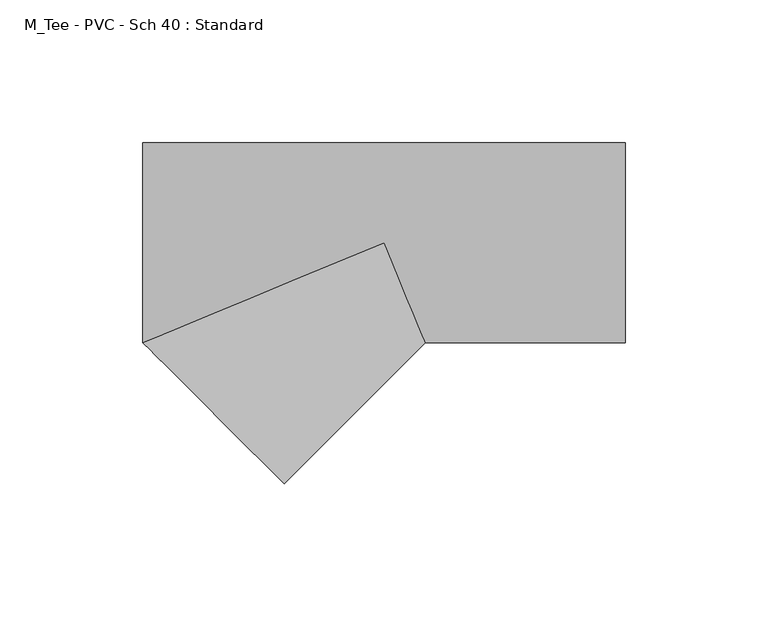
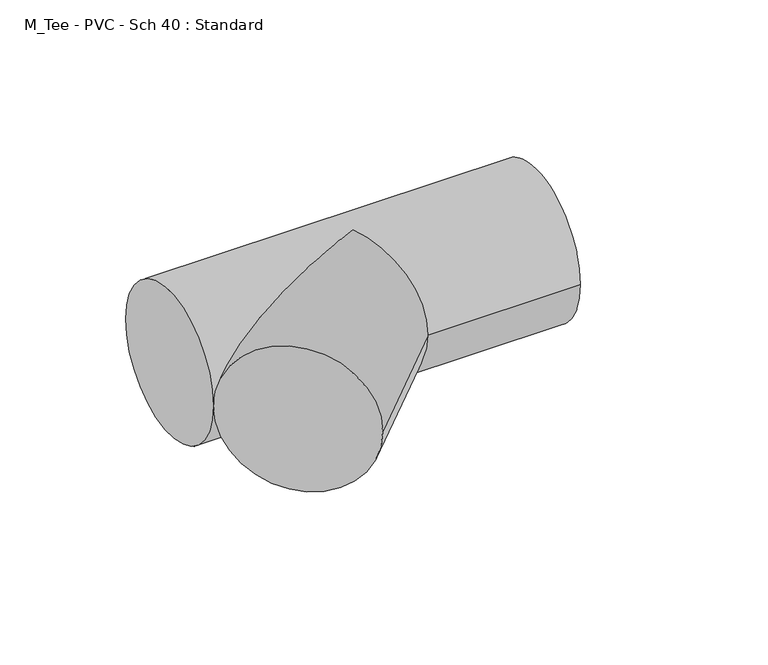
"""IFC4 building model written with IfcOpenShell, lengths in millimetres: pipe fitting geometry, M_Tee - PVC - Sch 40 : Standard."""

from ifc_helpers import new_model, si_unit, frame, origin, place, context, project, spatial, circle_curve, ellipse_curve, source, transform, mapped, element, save
from ifc_brep_helpers import plane_surface, cylinder_surface, advanced_brep


def m_tee_pvc_sch_40_standard_151c2b90(model_context):
    return source(origin(), model_context, "Body", "AdvancedBrep", [
        advanced_brep(
        [(-84.3193627, -34.925, 0.0), (-84.3193627, 34.925, 0.0), (84.3193627, -34.925, 0.0), (84.3193627, 34.925, 0.0), (0.0, 0.0, 34.925), (14.4659019, -34.925, 0.0), (0.0, 0.0, -34.925), (-34.9291776, -84.3176322, 0.0)],
        [
            (0, 1, circle_curve(frame((-84.3193627, 0.0, 0.0), z_axis=(-1.0, 0.0, 0.0), x_axis=(0.0, 1.0, 0.0)), 34.925)),
            (1, 0, circle_curve(frame((-84.3193627, 0.0, 0.0), z_axis=(-1.0, 0.0, 0.0), x_axis=(0.0, 1.0, 0.0)), 34.925)),
            (2, 3, circle_curve(frame((84.3193627, 0.0, 0.0), z_axis=(1.0, 0.0, 0.0), x_axis=(0.0, 1.0, 0.0)), 34.925)),
            (3, 2, circle_curve(frame((84.3193627, 0.0, 0.0), z_axis=(1.0, 0.0, 0.0), x_axis=(0.0, 1.0, 0.0)), 34.925)),
            (0, 4, ellipse_curve(frame((0.0, 0.0, 0.0), z_axis=(-0.3826719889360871, 0.92388427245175, 0.0), x_axis=(-0.9238842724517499, -0.38267198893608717, 0.0)), 91.2661522, 34.925)),
            (4, 5, ellipse_curve(frame((0.0, 0.0, 0.0), z_axis=(0.9238842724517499, 0.38267198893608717, 0.0), x_axis=(-0.3826719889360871, 0.92388427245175, 0.0)), 37.8023537, 34.925)),
            (5, 2),
            (3, 1),
            (5, 6, ellipse_curve(frame((0.0, 0.0, 0.0), z_axis=(0.9238842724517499, 0.38267198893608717, 0.0), x_axis=(-0.3826719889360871, 0.92388427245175, 0.0)), 37.8023537, 34.925)),
            (6, 0, ellipse_curve(frame((0.0, 0.0, 0.0), z_axis=(-0.3826719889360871, 0.92388427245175, 0.0), x_axis=(-0.9238842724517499, -0.38267198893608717, 0.0)), 91.2661522, 34.925)),
            (0, 7, circle_curve(frame((-59.6242701, -59.6213161, 0.0), z_axis=(-0.7071242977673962, -0.7070892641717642, 0.0), x_axis=(0.7070892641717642, -0.7071242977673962, 0.0)), 34.925)),
            (7, 0, circle_curve(frame((-59.6242701, -59.6213161, 0.0), z_axis=(-0.7071242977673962, -0.7070892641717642, 0.0), x_axis=(0.7070892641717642, -0.7071242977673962, 0.0)), 34.925)),
            (7, 5),
        ],
        [
            plane_surface(frame((-84.3193627, 0.0, 0.0), z_axis=(-1.0, 0.0, 0.0), x_axis=(0.0, 0.0, 1.0))),
            plane_surface(frame((84.3193627, 0.0, 0.0), z_axis=(1.0, 0.0, 0.0), x_axis=(0.0, 0.0, 1.0))),
            cylinder_surface(frame((-84.3193627, 0.0, 0.0), z_axis=(-1.0, 0.0, 0.0), x_axis=(0.0, 1.0, 0.0)), 34.925),
            plane_surface(frame((-59.6242701, -59.6213161, 0.0), z_axis=(-0.7071242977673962, -0.7070892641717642, 0.0), x_axis=(0.0, 0.0, 1.0))),
            cylinder_surface(frame((0.0, 0.0, 0.0), z_axis=(0.7071242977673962, 0.7070892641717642, 0.0), x_axis=(0.7070892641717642, -0.7071242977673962, 0.0)), 34.925),
        ],
        [
            (0, [[1, 2]]),
            (1, [[3, 4]]),
            (2, [[-1, 5, 6, 7, -4, 8]]),
            (2, [[-2, -8, -3, -7, 9, 10]]),
            (3, [[11, 12]]),
            (4, [[-12, 13, -6, -5]]),
            (4, [[-11, -10, -9, -13]]),
        ],
    ),
    ])


if __name__ == "__main__":
    model = new_model("IFC4")
    model_context = context("Model", 3, world=origin())
    ifc_project = project(units=[si_unit("LENGTHUNIT", "METRE", prefix="MILLI")], contexts=[model_context])
    site = spatial("IfcSite", under=ifc_project)
    building = spatial("IfcBuilding", under=site)
    placement = place(None, origin())
    m_tee_pvc_sch_40_standard_shape = m_tee_pvc_sch_40_standard_151c2b90(model_context)
    element("IfcPipeFitting", 1, ObjectType="M_Tee - PVC - Sch 40 : Standard", at=placement, inside=building, context=model_context, shape_type="MappedRepresentation", body=[
        mapped(m_tee_pvc_sch_40_standard_shape, transform((0.0, 0.0, 0.0), x_axis=(1.0, 0.0, 0.0), y_axis=(0.0, 1.0, 0.0), z_axis=(0.0, 0.0, 1.0))),
    ])
    save(model, "model.ifc")
